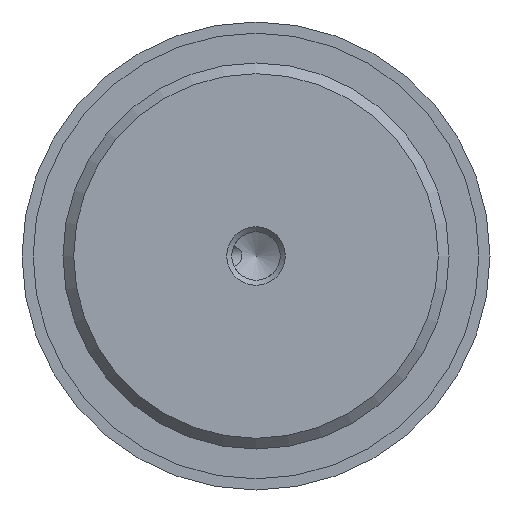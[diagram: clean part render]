
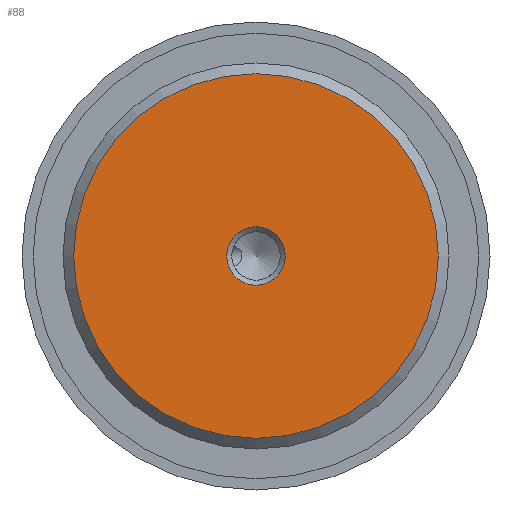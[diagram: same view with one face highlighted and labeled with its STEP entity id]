
A CAD part, front view. The second image highlights one B-rep face of the part: STEP entity #88.
In plain terms, the highlighted planar face has unit normal (0, -1, 0).
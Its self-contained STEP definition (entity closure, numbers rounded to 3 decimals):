
#88 = ADVANCED_FACE( '', ( #136, #137 ), #138, .F. );
#136 = FACE_BOUND( '', #202, .T. );
#137 = FACE_OUTER_BOUND( '', #203, .T. );
#138 = PLANE( '', #204 );
#202 = EDGE_LOOP( '', ( #316 ) );
#203 = EDGE_LOOP( '', ( #317 ) );
#204 = AXIS2_PLACEMENT_3D( '', #318, #319, #320 );
#316 = ORIENTED_EDGE( '', *, *, #434, .F. );
#317 = ORIENTED_EDGE( '', *, *, #435, .T. );
#318 = CARTESIAN_POINT( '', ( 15.58, 0., 0. ) );
#319 = DIRECTION( '', ( 0., 1., 0. ) );
#320 = DIRECTION( '', ( 0., 0., 1. ) );
#434 = EDGE_CURVE( '', #503, #503, #504, .T. );
#435 = EDGE_CURVE( '', #505, #505, #506, .T. );
#503 = VERTEX_POINT( '', #700 );
#504 = CIRCLE( '', #701, 2.5 );
#505 = VERTEX_POINT( '', #702 );
#506 = CIRCLE( '', #703, 15.58 );
#700 = CARTESIAN_POINT( '', ( 2.5, 0., 0. ) );
#701 = AXIS2_PLACEMENT_3D( '', #778, #779, #780 );
#702 = CARTESIAN_POINT( '', ( 0., 0., -15.58 ) );
#703 = AXIS2_PLACEMENT_3D( '', #781, #782, #783 );
#778 = CARTESIAN_POINT( '', ( 0., 0., 0. ) );
#779 = DIRECTION( '', ( 0., -1., 0. ) );
#780 = DIRECTION( '', ( 1., 0., 0. ) );
#781 = CARTESIAN_POINT( '', ( 0., 0., 0. ) );
#782 = DIRECTION( '', ( 0., -1., 0. ) );
#783 = DIRECTION( '', ( 0., 0., -1. ) );
